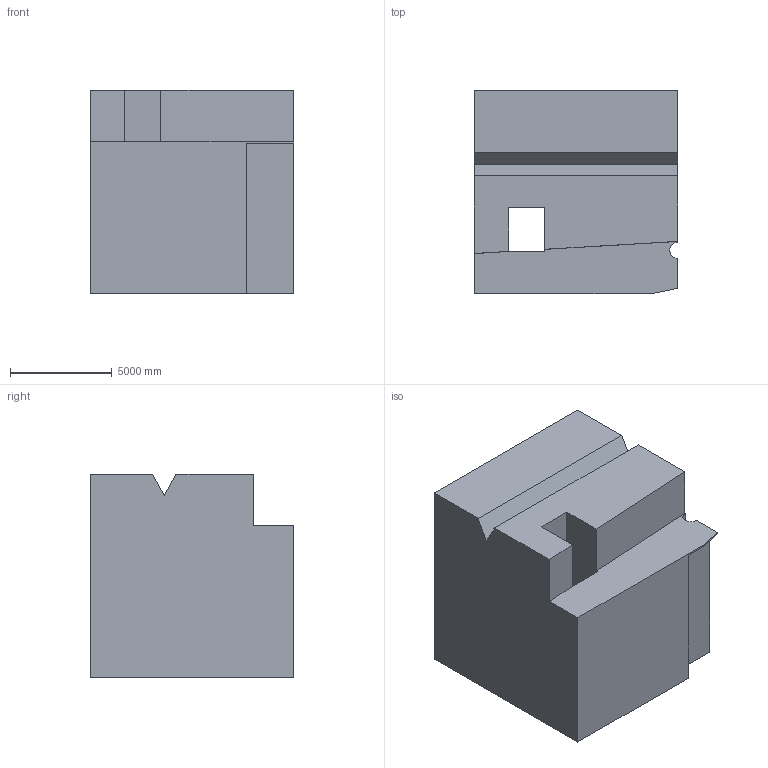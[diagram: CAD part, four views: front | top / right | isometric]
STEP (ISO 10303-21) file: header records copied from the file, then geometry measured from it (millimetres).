
FILE_DESCRIPTION (( 'STEP AP203' ), '1' );
FILE_NAME ('63.STEP', '2022-09-02T15:21:40', ( 'user' ), ( '' ), 'SwSTEP 2.0', 'SolidWorks 2021', '' );
FILE_SCHEMA (( 'CONFIG_CONTROL_DESIGN' ));
Length unit declared in the file: centimetre
Products named in the file (1): 63
Bounding box: 10000 x 10000 x 10000 mm (x, y, z)
Volume: 863091948887.5 mm3; surface area: 659904870 mm2
Topology: 1 solids, 1 shells, 24 faces, 68 edges, 45 vertices
Faces by surface type: plane 22, cylinder 2
Entity records: 849 total; most frequent: CARTESIAN_POINT 138, ORIENTED_EDGE 136, DIRECTION 122, EDGE_CURVE 68, VECTOR 64, LINE 64, VERTEX_POINT 45, AXIS2_PLACEMENT_3D 29
